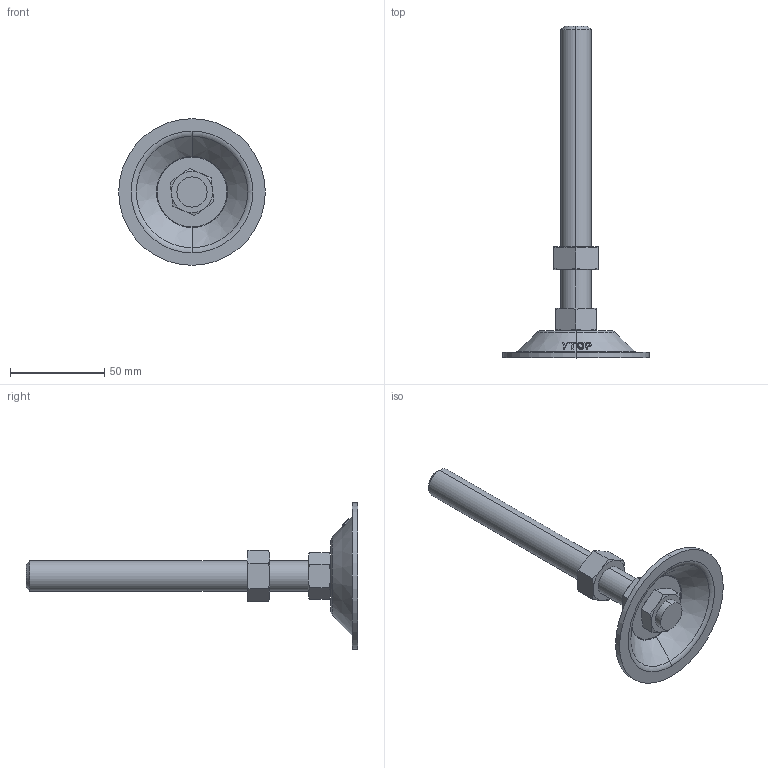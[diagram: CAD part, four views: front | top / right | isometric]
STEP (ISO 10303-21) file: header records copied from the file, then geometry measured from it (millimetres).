
FILE_DESCRIPTION (( 'STEP AP203' ), '1' );
FILE_NAME ('N-80-16150-S.STEP', '2020-09-10T08:05:23', ( '' ), ( '' ), 'SwSTEP 2.0', 'SolidWorks 2016', '' );
FILE_SCHEMA (( 'CONFIG_CONTROL_DESIGN' ));
Length unit declared in the file: millimetre
Products named in the file (5): H-80-3P H倰80菁釱; 脚垫调节六角螺母M16; 不锈钢双头螺杆M16系列_M16X150; N-80-16150-S; 脚垫锁紧六角薄螺母M16
Assembly tree (4 placements, depth 2):
  N-80-16150-S
    H-80-3P H倰80菁釱
    不锈钢双头螺杆M16系列_M16X150
    脚垫锁紧六角薄螺母M16
    脚垫调节六角螺母M16
Bounding box: 78 x 176.5 x 78 mm (x, y, z)
Volume: 59403.4 mm3; surface area: 24769.8 mm2
Topology: 4 solids, 4 shells, 140 faces, 320 edges, 198 vertices
Faces by surface type: cone 53, bspline 37, plane 30, cylinder 12, torus 8
Entity records: 7886 total; most frequent: CARTESIAN_POINT 4597, ORIENTED_EDGE 640, DIRECTION 452, EDGE_CURVE 320, AXIS2_PLACEMENT_3D 200, VERTEX_POINT 198, B_SPLINE_CURVE_WITH_KNOTS 178, EDGE_LOOP 156
